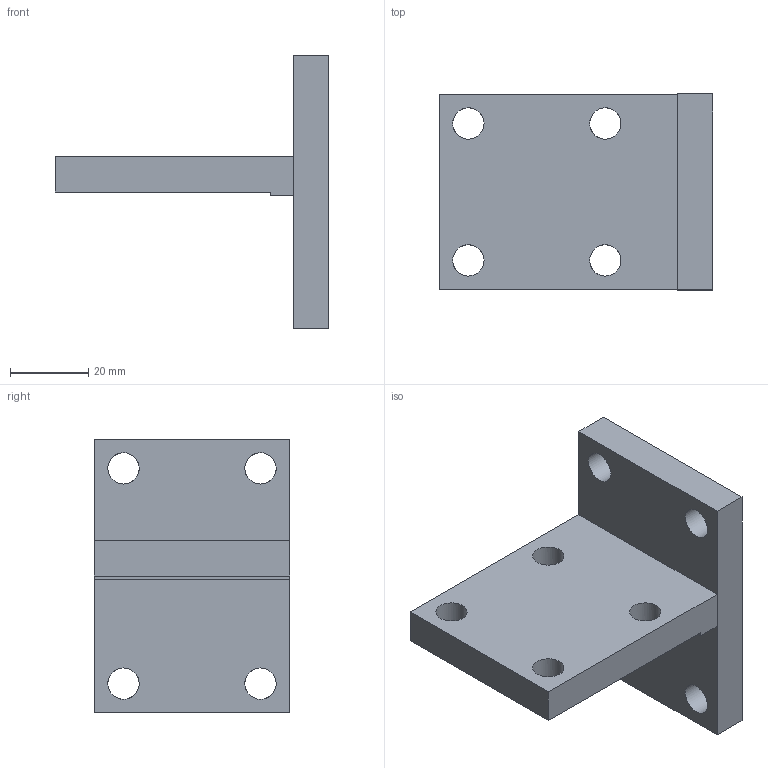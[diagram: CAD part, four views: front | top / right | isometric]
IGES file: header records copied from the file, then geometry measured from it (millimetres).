
Global section: file name: 03.01; native system: Autodesk Inventor 2014; preprocessor: unknown; author: Stefano; date: 20150331.094126; units: millimetre
Bounding box: 70 x 50 x 70 mm (x, y, z)
Volume: 55630.2 mm3; surface area: 18376.1 mm2
Topology: 2 solids, 2 shells, 22 faces, 62 edges, 44 vertices
Faces by surface type: bspline 22
